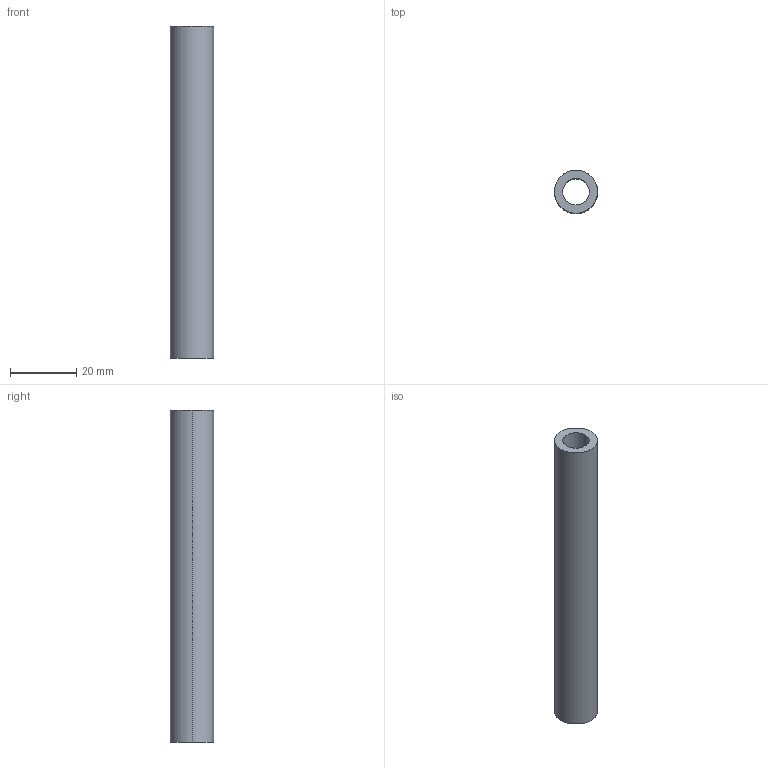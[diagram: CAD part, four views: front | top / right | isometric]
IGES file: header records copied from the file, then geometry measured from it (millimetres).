
Global section: file name: E:\UnigraphicsGraphicData\MISUMI_PRESS-PARTS\IGES\3d_sb13-100_00132_r00.igs; native system: NX V5.0; preprocessor: UGS NX IGES V5.0; author: MISUMI; date: 20110105.162424; units: millimetre
Bounding box: 13 x 13 x 100 mm (x, y, z)
Surface area: 6762.8 mm2 (no closed solid volume)
Topology: 0 solids, 0 shells, 6 faces, 48 edges, 48 vertices
Faces by surface type: bspline 6
